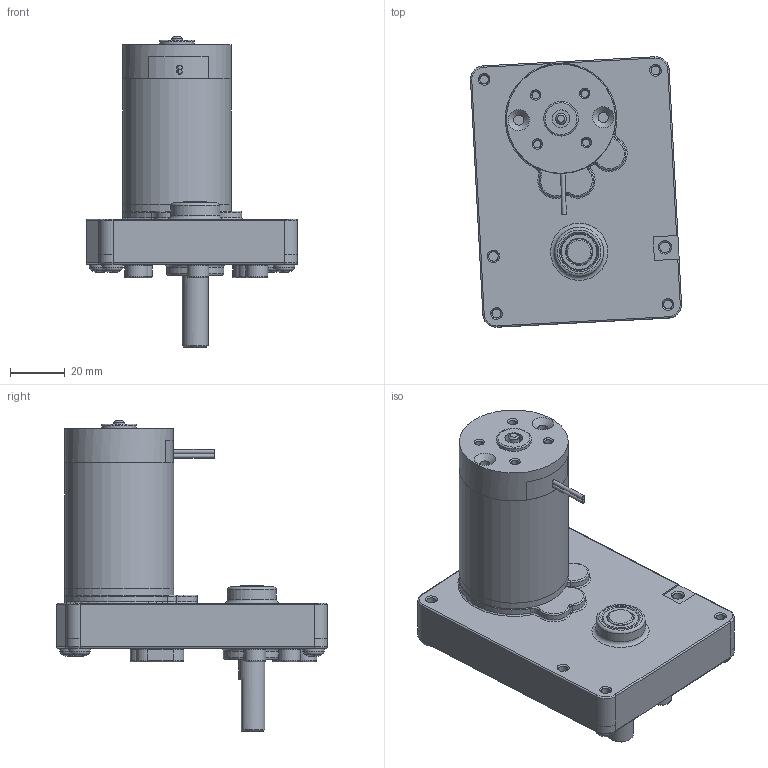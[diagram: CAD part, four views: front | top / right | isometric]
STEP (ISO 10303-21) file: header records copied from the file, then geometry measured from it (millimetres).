
FILE_DESCRIPTION(/* description */ (''),/* implementation_level */ '2;1');
FILE_NAME(/* name */ 'C:\Users\byjeong\Desktop\3D도면\SP44BL.stp',/* time_stamp */ '2015-03-31T15:19:18+09:00',/* author */ ('byjeong'),/* organization */ (''),/* preprocessor_version */ 'ST-DEVELOPER v15.6',/* originating_system */ 'Autodesk Inventor 2015',/* authorisation */ '');
FILE_SCHEMA (('AUTOMOTIVE_DESIGN { 1 0 10303 214 3 1 1 }'));
Length unit declared in the file: millimetre
Products named in the file (9): SQ BOX ASSY; RM4TYPE_FRONT_HOUSING_; RM44TYPE_SHAFT; RM4TYPE_PIPE_HOUSING_pi40XL45.9; RM4TYPE_BRUSH_BRAKET_LEAD; RM4TYPE_REAR_HOUSING; REAR_HOUSING__ASS'Y_LEAD; RM44ㅁBL; 조립품23
Bounding box: 77.42 x 99.18 x 113.87 mm (x, y, z)
Volume: 148115.6 mm3; surface area: 46320.2 mm2
Topology: 12 solids, 12 shells, 382 faces, 850 edges, 528 vertices
Faces by surface type: plane 116, cylinder 102, cone 87, torus 70, sphere 4, bspline 3
Full cylindrical faces by diameter (mm): 1.6 x2, 2.7 x4, 2.8 x4, 3.3 x4, 3.4 x3, 3.5 x1, 3.571 x3, 3.7 x2, 3.9 x1, 3.969 x1, 4 x10, 4.4 x3, 5 x1, 6.5 x1, 6.65 x1, 8 x5, 9.5 x3, 12.7 x3, 13.5 x2, 14.3 x1, 18 x1, 21 x1, 36.5 x1, 40 x3
Entity records: 10443 total; most frequent: CARTESIAN_POINT 2395, DIRECTION 1767, ORIENTED_EDGE 1384, AXIS2_PLACEMENT_3D 810, EDGE_CURVE 691, EDGE_LOOP 587, VERTEX_POINT 503, CIRCLE 414
